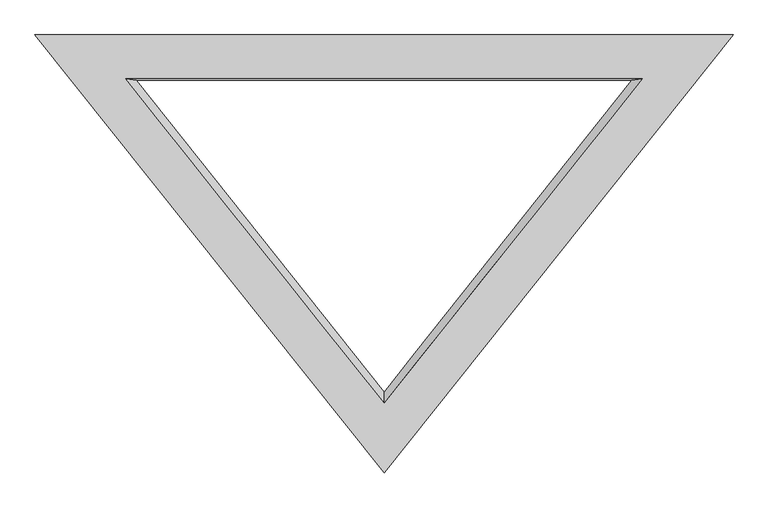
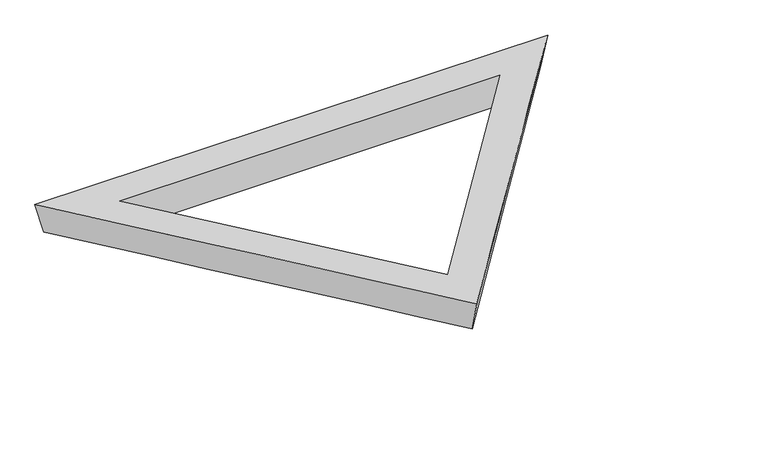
"""IFC4 building model written with IfcOpenShell, lengths in millimetres: plate geometry."""

from ifc_helpers import new_model, si_unit, frame, origin, place, context, project, spatial, source, transform, mapped, element, save
from ifc_brep_helpers import plane_surface, spline_surface, advanced_brep


def plate_08940fd2(model_context):
    return source(origin(), model_context, "Body", "AdvancedBrep", [
        advanced_brep(
        [(4941.6836635, 5537.9861046, 0.0), (4892.3134518, 5545.0827196, 196.7778026), (6096.0, 4035.9119861, 197.4104311), (6096.0, 4084.3808064, 0.0), (7299.6865482, 5545.0827196, 196.7778026), (7250.3163365, 5537.9861046, 0.0), (6096.0, 3757.6277908, 0.0), (7671.1550774, 5741.1861046, 0.0), (7721.6713147, 5748.2827017, 196.6926233), (6096.0, 3710.0314859, 197.5470368), (4520.8449226, 5741.1861046, 0.0), (4470.3286853, 5748.2827017, 196.6926233)],
        [
            (0, 1),
            (1, 2),
            (2, 3),
            (3, 0),
            (2, 4),
            (4, 5),
            (5, 3),
            (0, 5),
            (4, 1),
            (6, 7),
            (7, 8),
            (8, 9),
            (9, 6),
            (7, 10),
            (10, 11),
            (11, 8),
            (9, 11),
            (10, 6),
        ],
        [
            spline_surface(1, 1, [[(4941.6836635, 5537.9861046, 0.0), (6096.0, 4084.3808064, 0.0)], [(4892.3134518, 5545.0827196, 196.7778026), (6096.0, 4035.9119861, 197.4104311)]], [2, 2], [2, 2], [0.0, 1.0], [0.0, 1.0]),
            spline_surface(1, 1, [[(6096.0, 4084.3808064, 0.0), (7250.3163365, 5537.9861046, 0.0)], [(6096.0, 4035.9119861, 197.4104311), (7299.6865482, 5545.0827196, 196.7778026)]], [2, 2], [2, 2], [0.0, 1.0], [0.0, 1.0]),
            plane_surface(frame((6096.0, 5537.9861046, 0.0), z_axis=(0.0, -0.9993503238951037, 0.03604067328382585), x_axis=(-1.0, 0.0, 0.0))),
            spline_surface(1, 1, [[(6096.0, 3757.6277908, 0.0), (6096.0, 3710.0314859, 197.5470368)], [(7671.1550774, 5741.1861046, 0.0), (7721.6713147, 5748.2827017, 196.6926233)]], [2, 2], [2, 2], [0.0, 1.0], [0.0, 1.0]),
            plane_surface(frame((6096.0, 5741.1861046, 0.0), z_axis=(0.0, 0.9993497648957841, -0.03605617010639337), x_axis=(-1.0, 0.0, 0.0))),
            spline_surface(1, 1, [[(4520.8449226, 5741.1861046, 0.0), (4470.3286853, 5748.2827017, 196.6926233)], [(6096.0, 3757.6277908, 0.0), (6096.0, 3710.0314859, 197.5470368)]], [2, 2], [2, 2], [0.0, 1.0], [0.0, 1.0]),
            plane_surface(frame((6096.0, 5068.8656298, 196.9774278), z_axis=(0.0, 0.0004191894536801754, 0.9999999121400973), x_axis=(0.6235413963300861, -0.7817902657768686, 0.000327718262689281))),
            plane_surface(frame((6096.0, 5080.0, 0.0), z_axis=(0.0, 0.0, -1.0), x_axis=(-0.6218764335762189, 0.7831153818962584, 0.0))),
        ],
        [
            (0, [[1, 2, 3, 4]]),
            (1, [[-3, 5, 6, 7]]),
            (2, [[-1, 8, -6, 9]]),
            (3, [[10, 11, 12, 13]]),
            (4, [[-11, 14, 15, 16]]),
            (5, [[-13, 17, -15, 18]]),
            (6, [[-12, -16, -17], [-2, -9, -5]]),
            (7, [[-10, -18, -14], [-4, -7, -8]]),
        ],
    ),
    ])


if __name__ == "__main__":
    model = new_model("IFC4")
    model_context = context("Model", 3, world=origin())
    ifc_project = project(units=[si_unit("LENGTHUNIT", "METRE", prefix="MILLI")], contexts=[model_context])
    site = spatial("IfcSite", under=ifc_project)
    building = spatial("IfcBuilding", under=site)
    placement = place(None, origin())
    plate_shape = plate_08940fd2(model_context)
    element("IfcPlate", 1, ObjectType="tn_cpanel_patbase_triangle_flat_seamless_frame_02_cylinder : tn_cpanel_pattern_mullion_t8\"xh8\"", at=placement, inside=building, context=model_context, shape_type="MappedRepresentation", body=[
        mapped(plate_shape, transform((0.0, 0.0, 0.0), x_axis=(1.0, 0.0, 0.0), y_axis=(0.0, 1.0, 0.0), z_axis=(0.0, 0.0, 1.0))),
    ])
    save(model, "model.ifc")
